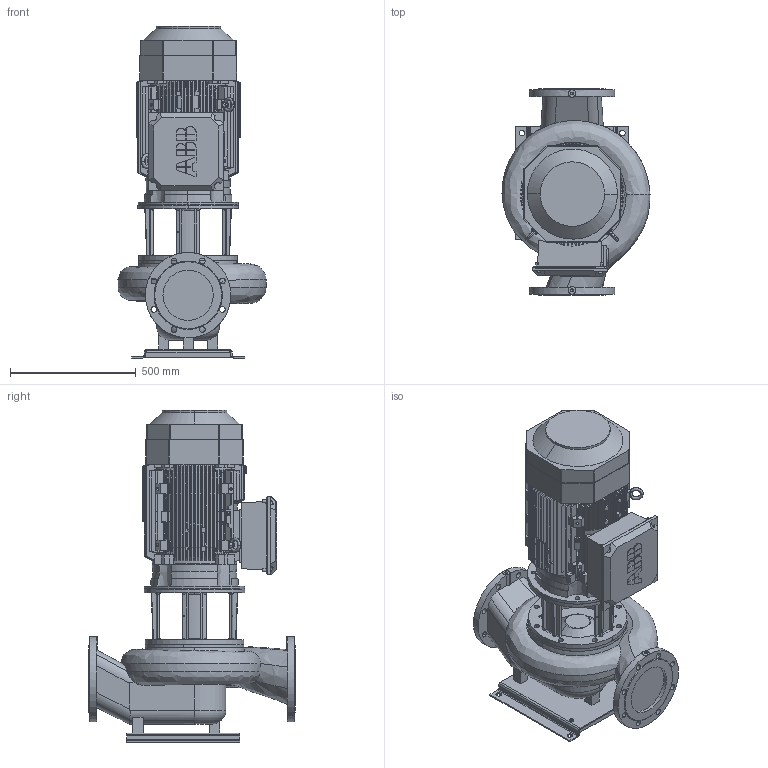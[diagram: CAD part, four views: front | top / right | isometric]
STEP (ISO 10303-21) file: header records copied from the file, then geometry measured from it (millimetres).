
FILE_DESCRIPTION(('STEP AP214'),'1');
FILE_NAME('export.stp','2018-05-29T13:40:19',(' '),(' '),'Spatial InterOp 3D',' ',' ');
FILE_SCHEMA(('AUTOMOTIVE_DESIGN { 1 0 10303 214 1 1 1 1 }'));
Length unit declared in the file: millimetre
Products named in the file (20): W_AL12024SD300; V_TLL100SAL1202; V_PPAL1202; P100464; P100462; P101191; IEC-200; -simplified-simplified_parts_Sta; 3GZV183002-193006-183002-183999_; 3GZV311000-999999-324000-324001_; -simplified-simplified_parts_Ter; 3GZV244000-310999-294000-299999_; -simplified-simplified_parts_M32; -simplified-simplified_parts_Fan; Implementation-STANDARD_PARTS_Li; ICE200_FRAME; P100781
Assembly tree (21 placements, depth 4):
  W_AL12024SD300
    V_TLL100SAL1202
    V_PPAL1202
    P100464
      P100462
      P101191  x2
    ICE200_FRAME
      IEC-200
        -simplified-simplified_parts_Sta
        3GZV183002-193006-183002-183999_
        3GZV311000-999999-324000-324001_
        -simplified-simplified_parts_Ter
        -simplified-simplified_parts_Ter
        3GZV244000-310999-294000-299999_
        3GZV244000-310999-294000-299999_
        3GZV244000-310999-294000-299999_
        -simplified-simplified_parts_M32
        -simplified-simplified_parts_Fan
        Implementation-STANDARD_PARTS_Li  x2
      P100781
Bounding box: 589.12 x 820 x 1321.53 mm (x, y, z)
Volume: 152761092.6 mm3; surface area: 6758029.5 mm2
Topology: 13 solids, 262 shells, 2143 faces, 6483 edges, 4616 vertices
Faces by surface type: bspline 1717, cylinder 238, plane 124, torus 34, cone 30
Entity records: 115433 total; most frequent: CARTESIAN_POINT 39116, ORIENTED_EDGE 11368, STYLED_ITEM 6287, PRESENTATION_STYLE_ASSIGNMENT 6287, COLOUR_RGB 6287, EDGE_CURVE 6220, VERTEX_POINT 4414, CURVE_STYLE 4195
